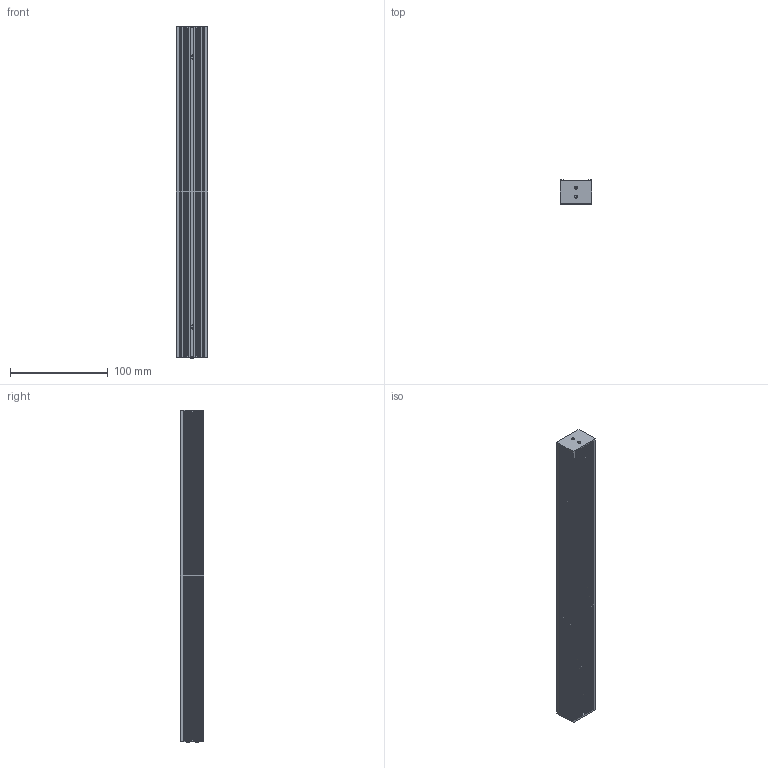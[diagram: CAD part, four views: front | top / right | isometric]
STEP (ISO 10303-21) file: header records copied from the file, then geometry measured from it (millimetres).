
FILE_DESCRIPTION((''),'2;1');
FILE_NAME('DSL32','2020-03-23T',('ASUS'),(''),'PRO/ENGINEER BY PARAMETRIC TECHNOLOGY CORPORATION, 2008380','PRO/ENGINEER BY PARAMETRIC TECHNOLOGY CORPORATION, 2008380','');
FILE_SCHEMA(('CONFIG_CONTROL_DESIGN'));
Length unit declared in the file: millimetre
Products named in the file (1): DSL32
Bounding box: 32 x 24 x 340 mm (x, y, z)
Volume: 230621.6 mm3; surface area: 75663.6 mm2
Topology: 1 solids, 5 shells, 305 faces, 780 edges, 512 vertices
Faces by surface type: plane 191, cylinder 94, cone 20
Entity records: 9205 total; most frequent: DIRECTION 1592, CARTESIAN_POINT 1590, ORIENTED_EDGE 1528, EDGE_CURVE 772, VECTOR 564, LINE 564, AXIS2_PLACEMENT_3D 514, VERTEX_POINT 512
